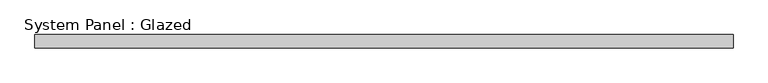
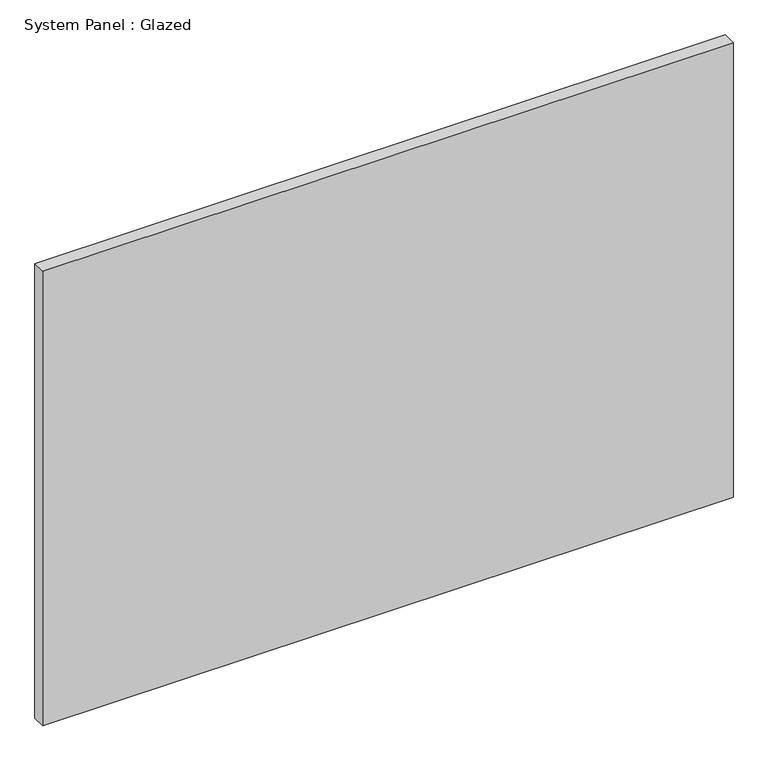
"""IFC4 building model written with IfcOpenShell, lengths in millimetres: plate geometry, System Panel : Glazed."""

from ifc_helpers import new_model, si_unit, origin, origin_with_axes, place, context, project, spatial, polyline, outline, extrude, source, transform, mapped, element, save


def system_panel_glazed_b67e3fcc(model_context):
    return source(origin(), model_context, "Body", "SweptSolid", [
        extrude(outline(polyline([(656.9445429, 19.05), (-656.9445429, 19.05), (-656.9445429, 44.45), (656.9445429, 44.45), (656.9445429, 19.05)])), origin_with_axes(), (0.0, 0.0, 1.0), 914.4),
    ])


if __name__ == "__main__":
    model = new_model("IFC4")
    model_context = context("Model", 3, world=origin())
    ifc_project = project(units=[si_unit("LENGTHUNIT", "METRE", prefix="MILLI")], contexts=[model_context])
    site = spatial("IfcSite", under=ifc_project)
    building = spatial("IfcBuilding", under=site)
    placement = place(None, origin())
    system_panel_glazed_shape = system_panel_glazed_b67e3fcc(model_context)
    element("IfcPlate", 1, ObjectType="System Panel : Glazed", at=placement, inside=building, context=model_context, shape_type="MappedRepresentation", body=[
        mapped(system_panel_glazed_shape, transform((0.0, 0.0, 0.0), x_axis=(1.0, 0.0, 0.0), y_axis=(0.0, 1.0, 0.0), z_axis=(0.0, 0.0, 1.0))),
    ])
    save(model, "model.ifc")
